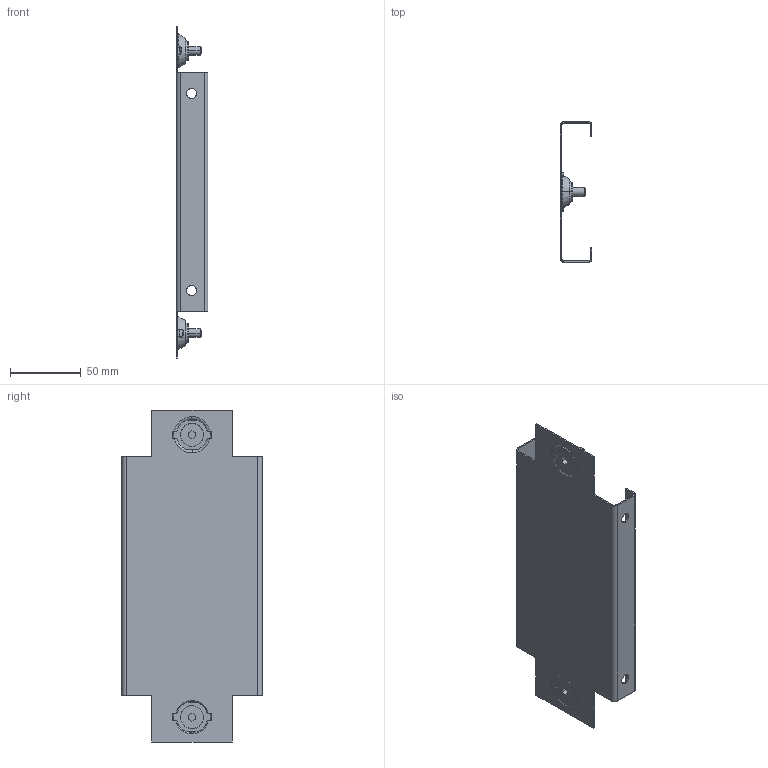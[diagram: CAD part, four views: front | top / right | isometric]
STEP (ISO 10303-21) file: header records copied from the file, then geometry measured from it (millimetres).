
FILE_DESCRIPTION((''),'2;1');
FILE_NAME('SB106111_3D_COLOUR','2013-07-26T',('SESA214371'),('Schneider-Electric'),'PRO/ENGINEER BY PARAMETRIC TECHNOLOGY CORPORATION, 2011410','PRO/ENGINEER BY PARAMETRIC TECHNOLOGY CORPORATION, 2011410','');
FILE_SCHEMA(('CONFIG_CONTROL_DESIGN'));
Length unit declared in the file: millimetre
Products named in the file (1): SB106111_3D_COLOUR
Bounding box: 22.5 x 99 x 234 mm (x, y, z)
Volume: 34367.2 mm3; surface area: 64632.9 mm2
Topology: 3 solids, 3 shells, 256 faces, 664 edges, 412 vertices
Faces by surface type: plane 116, cylinder 48, cone 46, bspline 32, torus 14
Entity records: 8926 total; most frequent: CARTESIAN_POINT 2684, ORIENTED_EDGE 1328, DIRECTION 1234, EDGE_CURVE 664, AXIS2_PLACEMENT_3D 420, VERTEX_POINT 412, VECTOR 394, LINE 394
